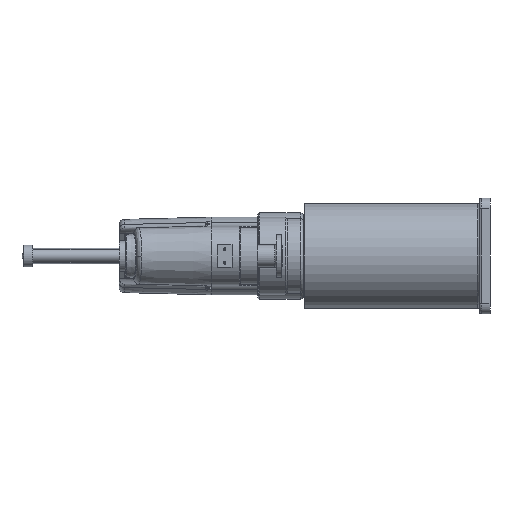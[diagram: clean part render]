
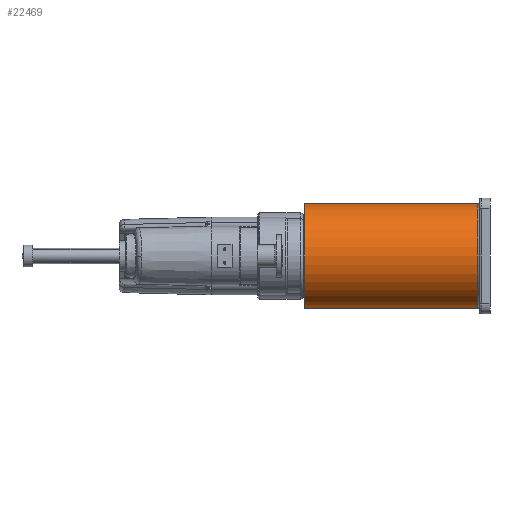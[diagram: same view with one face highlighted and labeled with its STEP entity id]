
A CAD part, left-side view. The second image highlights one B-rep face of the part: STEP entity #22469.
In plain terms, the highlighted cylindrical face has radius 100 mm (diameter 200 mm), a partial arc.
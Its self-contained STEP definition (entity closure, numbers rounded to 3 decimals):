
#181 = DIRECTION ( 'NONE',  ( 0., -1., 0. ) ) ;
#1900 = DIRECTION ( 'NONE',  ( 0., 0., 1. ) ) ;
#5023 = EDGE_CURVE ( 'NONE', #16059, #40541, #26195, .T. ) ;
#8677 = CIRCLE ( 'NONE', #36254, 100. ) ;
#9138 = CARTESIAN_POINT ( 'NONE',  ( 0., 332., 100. ) ) ;
#11806 = EDGE_CURVE ( 'NONE', #46978, #11974, #8677, .T. ) ;
#11974 = VERTEX_POINT ( 'NONE', #21711 ) ;
#13022 = CARTESIAN_POINT ( 'NONE',  ( 0., 332., -100. ) ) ;
#13087 = ORIENTED_EDGE ( 'NONE', *, *, #5023, .T. ) ;
#13151 = DIRECTION ( 'NONE',  ( 0., 1., 0. ) ) ;
#15184 = CARTESIAN_POINT ( 'NONE',  ( 0., 23., -100. ) ) ;
#16059 = VERTEX_POINT ( 'NONE', #15184 ) ;
#16872 = DIRECTION ( 'NONE',  ( 0., -1., 0. ) ) ;
#16900 = DIRECTION ( 'NONE',  ( 0., -1., 0. ) ) ;
#17317 = LINE ( 'NONE', #9138, #45633 ) ;
#17518 = CARTESIAN_POINT ( 'NONE',  ( 0., 23., 100. ) ) ;
#18177 = CYLINDRICAL_SURFACE ( 'NONE', #37454, 100. ) ;
#19118 = DIRECTION ( 'NONE',  ( 0., 1., 0. ) ) ;
#20739 = EDGE_CURVE ( 'NONE', #46978, #16059, #22023, .T. ) ;
#21711 = CARTESIAN_POINT ( 'NONE',  ( 0., 353., 100. ) ) ;
#22023 = LINE ( 'NONE', #13022, #42491 ) ;
#22469 = ADVANCED_FACE ( 'NONE', ( #32683 ), #18177, .T. ) ;
#26195 = CIRCLE ( 'NONE', #35348, 100. ) ;
#29469 = CARTESIAN_POINT ( 'NONE',  ( 0., 353., -100. ) ) ;
#32683 = FACE_OUTER_BOUND ( 'NONE', #38273, .T. ) ;
#35348 = AXIS2_PLACEMENT_3D ( 'NONE', #49565, #19118, #42812 ) ;
#36254 = AXIS2_PLACEMENT_3D ( 'NONE', #47968, #13151, #1900 ) ;
#36637 = ORIENTED_EDGE ( 'NONE', *, *, #37684, .F. ) ;
#37454 = AXIS2_PLACEMENT_3D ( 'NONE', #38698, #181, #38535 ) ;
#37684 = EDGE_CURVE ( 'NONE', #11974, #40541, #17317, .T. ) ;
#38273 = EDGE_LOOP ( 'NONE', ( #36637, #47446, #41617, #13087 ) ) ;
#38535 = DIRECTION ( 'NONE',  ( 0., 0., -1. ) ) ;
#38698 = CARTESIAN_POINT ( 'NONE',  ( 0., 332., 0. ) ) ;
#40541 = VERTEX_POINT ( 'NONE', #17518 ) ;
#41617 = ORIENTED_EDGE ( 'NONE', *, *, #20739, .T. ) ;
#42491 = VECTOR ( 'NONE', #16900, 1000. ) ;
#42812 = DIRECTION ( 'NONE',  ( 0., 0., 1. ) ) ;
#45633 = VECTOR ( 'NONE', #16872, 1000. ) ;
#46978 = VERTEX_POINT ( 'NONE', #29469 ) ;
#47446 = ORIENTED_EDGE ( 'NONE', *, *, #11806, .F. ) ;
#47968 = CARTESIAN_POINT ( 'NONE',  ( 0., 353., 0. ) ) ;
#49565 = CARTESIAN_POINT ( 'NONE',  ( 0., 23., 0. ) ) ;
